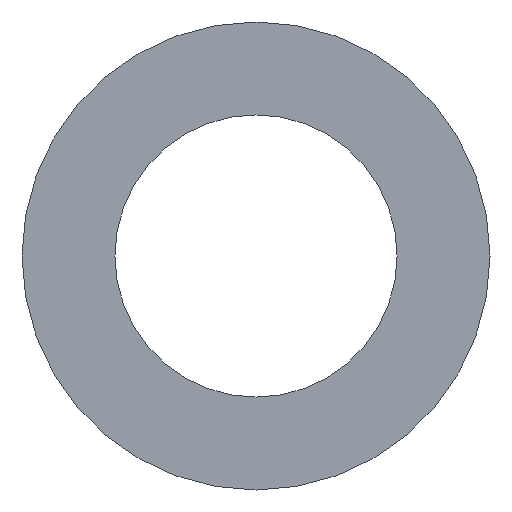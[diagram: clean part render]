
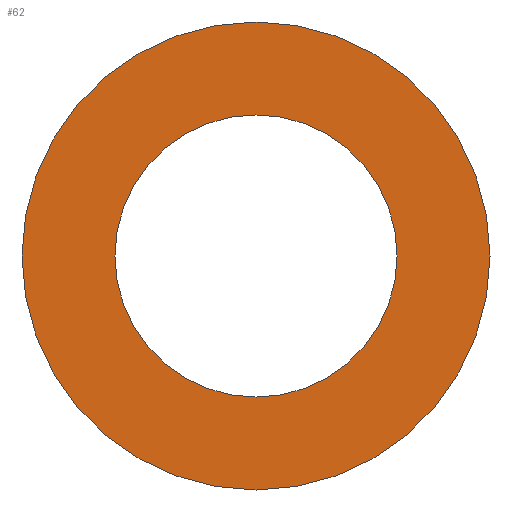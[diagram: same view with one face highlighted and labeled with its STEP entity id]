
A CAD part, front view. The second image highlights one B-rep face of the part: STEP entity #62.
In plain terms, the highlighted planar face has unit normal (0, -1, 0).
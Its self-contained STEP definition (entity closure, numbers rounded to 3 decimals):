
#20=PLANE('',#83);
#26=ORIENTED_EDGE('',*,*,#30,.T.);
#27=ORIENTED_EDGE('',*,*,#32,.F.);
#30=EDGE_CURVE('',#34,#34,#38,.T.);
#32=EDGE_CURVE('',#36,#36,#40,.T.);
#34=VERTEX_POINT('',#106);
#36=VERTEX_POINT('',#111);
#38=CIRCLE('',#78,102.5);
#40=CIRCLE('',#81,170.);
#46=EDGE_LOOP('',(#26));
#47=EDGE_LOOP('',(#27));
#54=FACE_BOUND('',#46,.T.);
#55=FACE_BOUND('',#47,.T.);
#62=ADVANCED_FACE('',(#54,#55),#20,.F.);
#78=AXIS2_PLACEMENT_3D('',#105,#89,#90);
#81=AXIS2_PLACEMENT_3D('',#110,#95,#96);
#83=AXIS2_PLACEMENT_3D('',#114,#99,#100);
#89=DIRECTION('',(0.,1.,0.));
#90=DIRECTION('',(1.,0.,0.));
#95=DIRECTION('',(0.,1.,0.));
#96=DIRECTION('',(1.,0.,0.));
#99=DIRECTION('',(0.,1.,0.));
#100=DIRECTION('',(0.,0.,1.));
#105=CARTESIAN_POINT('',(0.,-1.5,0.));
#106=CARTESIAN_POINT('',(102.5,-1.5,0.));
#110=CARTESIAN_POINT('',(0.,-1.5,0.));
#111=CARTESIAN_POINT('',(170.,-1.5,0.));
#114=CARTESIAN_POINT('',(0.,-1.5,0.));
